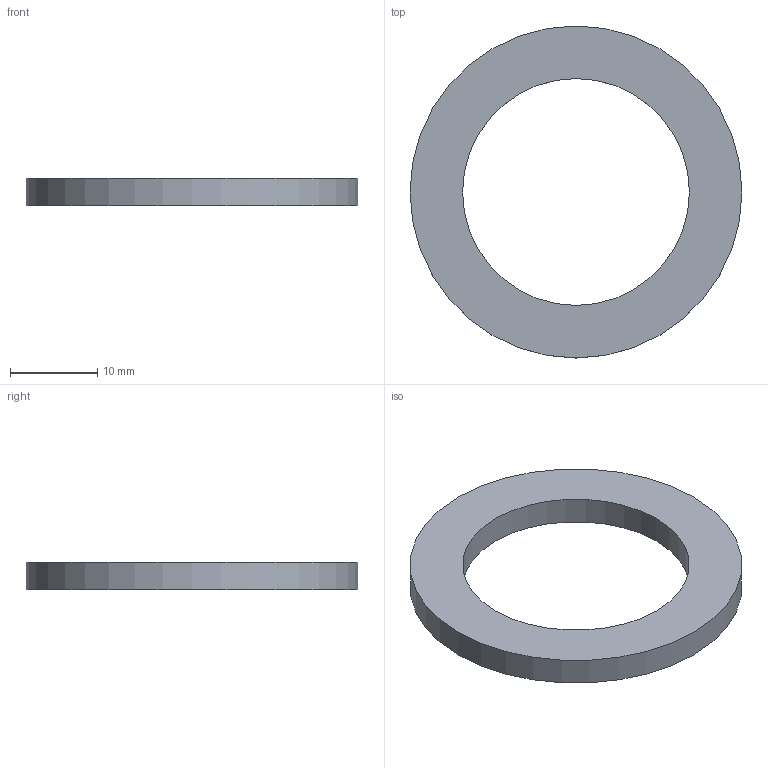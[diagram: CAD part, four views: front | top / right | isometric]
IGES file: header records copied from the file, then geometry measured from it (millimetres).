
Global section: file name: No Iges File Name specified; native system: AutoDesk Inventor R6.0; preprocessor: AutoDesk Inventor Iges Exporter R6.0; author: No Author specified; organization: No Organization specified; date: 20080121.075327; units: inch
Bounding box: 38.1 x 38.1 x 3.17 mm (x, y, z)
Surface area: 1855.2 mm2 (no closed solid volume)
Topology: 0 solids, 0 shells, 4 faces, 10 edges, 8 vertices
Faces by surface type: revolution 2, plane 2
